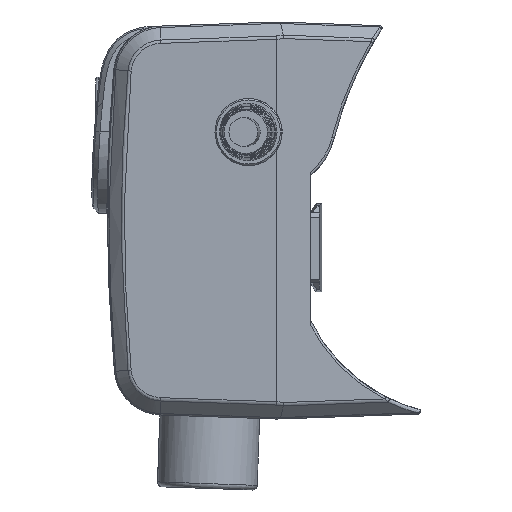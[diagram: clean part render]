
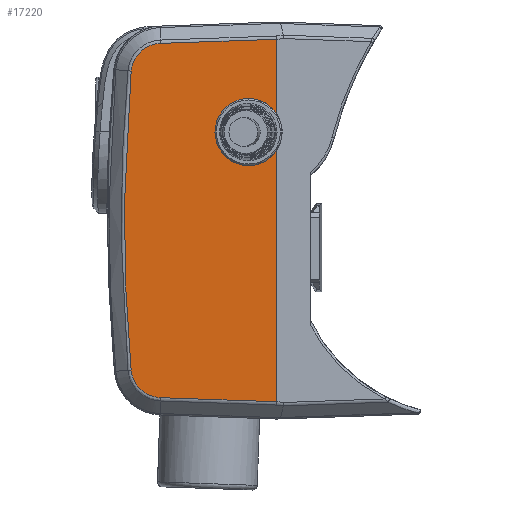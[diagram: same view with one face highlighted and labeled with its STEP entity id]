
A CAD part, left-side view. The second image highlights one B-rep face of the part: STEP entity #17220.
In plain terms, the highlighted planar face has unit normal (-0.999, 0.035, 0).
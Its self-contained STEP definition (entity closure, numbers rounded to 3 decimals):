
#284 = AXIS2_PLACEMENT_3D ( 'NONE', #18154, #48968, #22563 ) ;
#1146 = CARTESIAN_POINT ( 'NONE',  ( 0.848, 24.282, -78.533 ) ) ;
#1512 = VECTOR ( 'NONE', #32121, 1000. ) ;
#1833 = CARTESIAN_POINT ( 'NONE',  ( 1.012, 28.977, -6.768 ) ) ;
#3661 = CARTESIAN_POINT ( 'NONE',  ( 1.061, 30.385, -73.122 ) ) ;
#4047 = CARTESIAN_POINT ( 'NONE',  ( 0.939, 26.878, -77.893 ) ) ;
#4548 = B_SPLINE_CURVE_WITH_KNOTS ( 'NONE', 3,
 ( #30235, #3661, #34701, #8295, #39095, #12771, #43520, #17179, #47973, #21556, #52402, #26016, #56822, #30421, #4047, #34892, #8478, #39292, #12962, #43716 ),
 .UNSPECIFIED., .F., .F.,
 ( 4, 2, 2, 2, 2, 2, 2, 2, 2, 4 ),
 ( 0., 0.001, 0.002, 0.003, 0.005, 0.005, 0.006, 0.007, 0.008, 0.009 ),
 .UNSPECIFIED. ) ;
#5218 = DIRECTION ( 'NONE',  ( 0.035, 0.999, -0.035 ) ) ;
#5802 = CARTESIAN_POINT ( 'NONE',  ( 0.001, 0.035, -3.621 ) ) ;
#6246 = CARTESIAN_POINT ( 'NONE',  ( 1.028, 29.435, -7.382 ) ) ;
#6445 = CARTESIAN_POINT ( 'NONE',  ( 1.062, 30.419, -10.267 ) ) ;
#8191 = ORIENTED_EDGE ( 'NONE', *, *, #26366, .F. ) ;
#8295 = CARTESIAN_POINT ( 'NONE',  ( 1.051, 30.105, -74.244 ) ) ;
#8478 = CARTESIAN_POINT ( 'NONE',  ( 0.901, 25.796, -78.308 ) ) ;
#9349 = LINE ( 'NONE', #47693, #21031 ) ;
#9529 = CARTESIAN_POINT ( 'NONE',  ( 1.062, 30.419, -10.267 ) ) ;
#9996 = VECTOR ( 'NONE', #5218, 1000. ) ;
#10514 = CARTESIAN_POINT ( 'NONE',  ( 0.875, 25.056, -4.529 ) ) ;
#10704 = CARTESIAN_POINT ( 'NONE',  ( 1.047, 29.971, -8.405 ) ) ;
#12076 = CARTESIAN_POINT ( 'NONE',  ( 1.062, 30.419, -72.735 ) ) ;
#12771 = CARTESIAN_POINT ( 'NONE',  ( 1.035, 29.632, -75.292 ) ) ;
#12962 = CARTESIAN_POINT ( 'NONE',  ( 0.861, 24.67, -78.521 ) ) ;
#13291 = LINE ( 'NONE', #45212, #1512 ) ;
#13759 = PLANE ( 'NONE',  #284 ) ;
#14992 = CARTESIAN_POINT ( 'NONE',  ( 0.914, 26.17, -4.811 ) ) ;
#15080 = ORIENTED_EDGE ( 'NONE', *, *, #44084, .F. ) ;
#15188 = CARTESIAN_POINT ( 'NONE',  ( 1.059, 30.315, -9.503 ) ) ;
#17179 = CARTESIAN_POINT ( 'NONE',  ( 1.012, 28.978, -76.244 ) ) ;
#17220 = ADVANCED_FACE ( 'NONE', ( #56798 ), #13759, .T. ) ;
#18154 = CARTESIAN_POINT ( 'NONE',  ( 0., 0., 0. ) ) ;
#18380 = CARTESIAN_POINT ( 'NONE',  ( 1.107, 31.711, -31.075 ) ) ;
#19334 = CARTESIAN_POINT ( 'NONE',  ( 0.951, 27.223, -5.29 ) ) ;
#19528 = CARTESIAN_POINT ( 'NONE',  ( 1.062, 30.419, -10.267 ) ) ;
#20075 = B_SPLINE_CURVE_WITH_KNOTS ( 'NONE', 3,
 ( #9529, #35900, #44744, #18380, #49211, #22783, #53595, #27202 ),
 .UNSPECIFIED., .F., .F.,
 ( 4, 2, 2, 4 ),
 ( 0., 0.016, 0.031, 0.063 ),
 .UNSPECIFIED. ) ;
#20399 = DIRECTION ( 'NONE',  ( -0.999, 0.035, 0. ) ) ;
#20534 = VERTEX_POINT ( 'NONE', #12076 ) ;
#21031 = VECTOR ( 'NONE', #38822, 1000. ) ;
#21298 = CARTESIAN_POINT ( 'NONE',  ( 0.204, 5.844, -23. ) ) ;
#21556 = CARTESIAN_POINT ( 'NONE',  ( 0.988, 28.306, -76.927 ) ) ;
#21693 = ORIENTED_EDGE ( 'NONE', *, *, #29339, .T. ) ;
#22483 = ORIENTED_EDGE ( 'NONE', *, *, #28775, .T. ) ;
#22563 = DIRECTION ( 'NONE',  ( -0.035, -0.999, 0. ) ) ;
#22611 = VERTEX_POINT ( 'NONE', #33923 ) ;
#22731 = ORIENTED_EDGE ( 'NONE', *, *, #28627, .T. ) ;
#22783 = CARTESIAN_POINT ( 'NONE',  ( 1.111, 31.828, -51.925 ) ) ;
#23345 = B_SPLINE_CURVE_WITH_KNOTS ( 'NONE', 3,
 ( #41115, #50000, #10514, #41302, #14992, #45755, #19334, #50192, #23777, #54603, #28212, #1833, #32670, #6246, #37084, #10704, #41501, #15188, #45954, #19528 ),
 .UNSPECIFIED., .F., .F.,
 ( 4, 2, 2, 2, 2, 2, 2, 2, 2, 4 ),
 ( 0., 0.001, 0.002, 0.003, 0.005, 0.005, 0.006, 0.007, 0.008, 0.009 ),
 .UNSPECIFIED. ) ;
#23777 = CARTESIAN_POINT ( 'NONE',  ( 0.984, 28.167, -5.942 ) ) ;
#25156 = EDGE_CURVE ( 'NONE', #49595, #51972, #9349, .T. ) ;
#25231 = CARTESIAN_POINT ( 'NONE',  ( 0.142, 4.056, -79.239 ) ) ;
#25768 = DIRECTION ( 'NONE',  ( -0.035, -0.999, 0. ) ) ;
#26016 = CARTESIAN_POINT ( 'NONE',  ( 0.973, 27.855, -77.292 ) ) ;
#26366 = EDGE_CURVE ( 'NONE', #32179, #39828, #28756, .T. ) ;
#26572 = CIRCLE ( 'NONE', #32955, 7. ) ;
#27202 = CARTESIAN_POINT ( 'NONE',  ( 1.062, 30.419, -72.735 ) ) ;
#28212 = CARTESIAN_POINT ( 'NONE',  ( 1.003, 28.722, -6.478 ) ) ;
#28627 = EDGE_CURVE ( 'NONE', #51972, #40874, #32018, .T. ) ;
#28756 = CIRCLE ( 'NONE', #29541, 7. ) ;
#28775 = EDGE_CURVE ( 'NONE', #20534, #47035, #4548, .T. ) ;
#29339 = EDGE_CURVE ( 'NONE', #33530, #20534, #20075, .T. ) ;
#29541 = AXIS2_PLACEMENT_3D ( 'NONE', #21298, #52135, #25768 ) ;
#30235 = CARTESIAN_POINT ( 'NONE',  ( 1.062, 30.419, -72.735 ) ) ;
#30421 = CARTESIAN_POINT ( 'NONE',  ( 0.95, 27.216, -77.714 ) ) ;
#31594 = CARTESIAN_POINT ( 'NONE',  ( 0.001, 0.035, -19.099 ) ) ;
#32018 = LINE ( 'NONE', #40669, #9996 ) ;
#32121 = DIRECTION ( 'NONE',  ( 0., 0., 1. ) ) ;
#32179 = VERTEX_POINT ( 'NONE', #40584 ) ;
#32394 = ORIENTED_EDGE ( 'NONE', *, *, #38178, .T. ) ;
#32670 = CARTESIAN_POINT ( 'NONE',  ( 1.016, 29.097, -6.918 ) ) ;
#32703 = CARTESIAN_POINT ( 'NONE',  ( 0.001, 0.035, -26.901 ) ) ;
#32955 = AXIS2_PLACEMENT_3D ( 'NONE', #46829, #20399, #51249 ) ;
#33512 = EDGE_CURVE ( 'NONE', #40874, #33530, #23345, .T. ) ;
#33530 = VERTEX_POINT ( 'NONE', #6445 ) ;
#33923 = CARTESIAN_POINT ( 'NONE',  ( 0.001, 0.035, -79.379 ) ) ;
#34701 = CARTESIAN_POINT ( 'NONE',  ( 1.059, 30.314, -73.505 ) ) ;
#34892 = CARTESIAN_POINT ( 'NONE',  ( 0.914, 26.165, -78.191 ) ) ;
#35900 = CARTESIAN_POINT ( 'NONE',  ( 1.079, 30.889, -15.46 ) ) ;
#37084 = CARTESIAN_POINT ( 'NONE',  ( 1.035, 29.633, -7.71 ) ) ;
#37932 = LINE ( 'NONE', #25231, #51059 ) ;
#38178 = EDGE_CURVE ( 'NONE', #22611, #39828, #13291, .T. ) ;
#38822 = DIRECTION ( 'NONE',  ( 0., 0., 1. ) ) ;
#39095 = CARTESIAN_POINT ( 'NONE',  ( 1.047, 29.969, -74.601 ) ) ;
#39292 = CARTESIAN_POINT ( 'NONE',  ( 0.875, 25.05, -78.472 ) ) ;
#39521 = EDGE_CURVE ( 'NONE', #47035, #22611, #37932, .T. ) ;
#39828 = VERTEX_POINT ( 'NONE', #32703 ) ;
#40584 = CARTESIAN_POINT ( 'NONE',  ( 0.448, 12.84, -23. ) ) ;
#40669 = CARTESIAN_POINT ( 'NONE',  ( 0.848, 24.279, -4.467 ) ) ;
#40874 = VERTEX_POINT ( 'NONE', #55071 ) ;
#40955 = ORIENTED_EDGE ( 'NONE', *, *, #39521, .T. ) ;
#41115 = CARTESIAN_POINT ( 'NONE',  ( 0.848, 24.282, -4.467 ) ) ;
#41302 = CARTESIAN_POINT ( 'NONE',  ( 0.901, 25.806, -4.695 ) ) ;
#41501 = CARTESIAN_POINT ( 'NONE',  ( 1.051, 30.109, -8.766 ) ) ;
#43520 = CARTESIAN_POINT ( 'NONE',  ( 1.028, 29.43, -75.626 ) ) ;
#43716 = CARTESIAN_POINT ( 'NONE',  ( 0.848, 24.282, -78.533 ) ) ;
#44084 = EDGE_CURVE ( 'NONE', #49595, #32179, #26572, .T. ) ;
#44744 = CARTESIAN_POINT ( 'NONE',  ( 1.091, 31.241, -20.66 ) ) ;
#45212 = CARTESIAN_POINT ( 'NONE',  ( 0.001, 0.035, -3.624 ) ) ;
#45755 = CARTESIAN_POINT ( 'NONE',  ( 0.939, 26.878, -5.107 ) ) ;
#45954 = CARTESIAN_POINT ( 'NONE',  ( 1.061, 30.385, -9.88 ) ) ;
#46829 = CARTESIAN_POINT ( 'NONE',  ( 0.204, 5.844, -23. ) ) ;
#47035 = VERTEX_POINT ( 'NONE', #1146 ) ;
#47693 = CARTESIAN_POINT ( 'NONE',  ( 0.001, 0.035, -3.624 ) ) ;
#47973 = CARTESIAN_POINT ( 'NONE',  ( 1.003, 28.726, -76.531 ) ) ;
#48968 = DIRECTION ( 'NONE',  ( -0.999, 0.035, 0. ) ) ;
#49211 = CARTESIAN_POINT ( 'NONE',  ( 1.111, 31.828, -36.287 ) ) ;
#49595 = VERTEX_POINT ( 'NONE', #31594 ) ;
#50000 = CARTESIAN_POINT ( 'NONE',  ( 0.861, 24.669, -4.479 ) ) ;
#50128 = EDGE_LOOP ( 'NONE', ( #15080, #52577, #22731, #51422, #21693, #22483, #40955, #32394, #8191 ) ) ;
#50192 = CARTESIAN_POINT ( 'NONE',  ( 0.973, 27.866, -5.706 ) ) ;
#51059 = VECTOR ( 'NONE', #51605, 1000. ) ;
#51249 = DIRECTION ( 'NONE',  ( -0.035, -0.999, 0. ) ) ;
#51422 = ORIENTED_EDGE ( 'NONE', *, *, #33512, .T. ) ;
#51605 = DIRECTION ( 'NONE',  ( -0.035, -0.999, -0.035 ) ) ;
#51972 = VERTEX_POINT ( 'NONE', #5802 ) ;
#52135 = DIRECTION ( 'NONE',  ( -0.999, 0.035, 0. ) ) ;
#52402 = CARTESIAN_POINT ( 'NONE',  ( 0.983, 28.159, -77.054 ) ) ;
#52577 = ORIENTED_EDGE ( 'NONE', *, *, #25156, .T. ) ;
#53595 = CARTESIAN_POINT ( 'NONE',  ( 1.095, 31.359, -62.35 ) ) ;
#54603 = CARTESIAN_POINT ( 'NONE',  ( 0.998, 28.587, -6.338 ) ) ;
#55071 = CARTESIAN_POINT ( 'NONE',  ( 0.848, 24.282, -4.467 ) ) ;
#56798 = FACE_OUTER_BOUND ( 'NONE', #50128, .T. ) ;
#56822 = CARTESIAN_POINT ( 'NONE',  ( 0.967, 27.698, -77.403 ) ) ;
